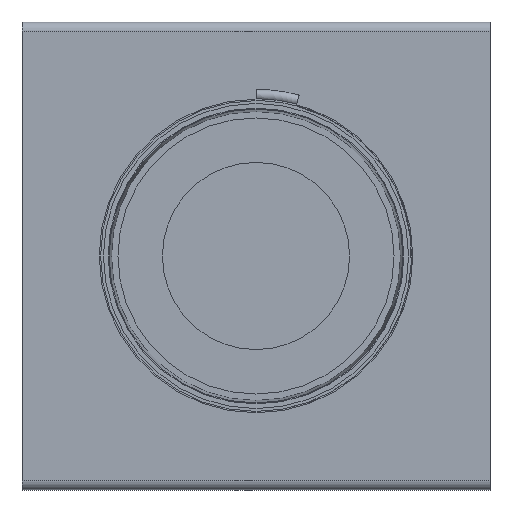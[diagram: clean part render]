
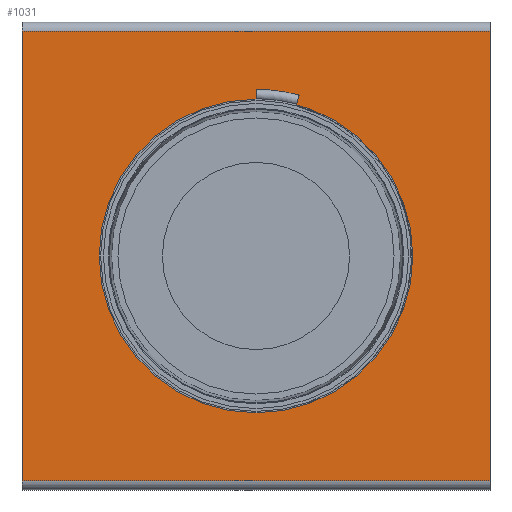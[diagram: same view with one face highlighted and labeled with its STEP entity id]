
A CAD part, front view. The second image highlights one B-rep face of the part: STEP entity #1031.
In plain terms, the highlighted planar face has unit normal (0, -1, 0).
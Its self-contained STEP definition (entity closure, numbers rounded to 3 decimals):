
#28=FACE_BOUND('',#144,.T.);
#48=PLANE('',#1121);
#81=FACE_OUTER_BOUND('',#143,.T.);
#143=EDGE_LOOP('',(#721,#722,#723,#724));
#144=EDGE_LOOP('',(#725,#726));
#225=LINE('',#1653,#289);
#230=LINE('',#1665,#294);
#231=LINE('',#1669,#295);
#232=LINE('',#1670,#296);
#289=VECTOR('',#1284,10.);
#294=VECTOR('',#1293,10.);
#295=VECTOR('',#1298,10.);
#296=VECTOR('',#1299,10.);
#352=CIRCLE('',#1122,167.5);
#353=CIRCLE('',#1123,167.5);
#444=VERTEX_POINT('',#1650);
#445=VERTEX_POINT('',#1652);
#450=VERTEX_POINT('',#1664);
#451=VERTEX_POINT('',#1668);
#452=VERTEX_POINT('',#1671);
#453=VERTEX_POINT('',#1672);
#555=EDGE_CURVE('',#445,#444,#225,.T.);
#561=EDGE_CURVE('',#445,#450,#230,.T.);
#563=EDGE_CURVE('',#451,#444,#231,.T.);
#564=EDGE_CURVE('',#451,#450,#232,.T.);
#565=EDGE_CURVE('',#452,#453,#352,.T.);
#566=EDGE_CURVE('',#453,#452,#353,.T.);
#721=ORIENTED_EDGE('',*,*,#561,.F.);
#722=ORIENTED_EDGE('',*,*,#555,.T.);
#723=ORIENTED_EDGE('',*,*,#563,.F.);
#724=ORIENTED_EDGE('',*,*,#564,.T.);
#725=ORIENTED_EDGE('',*,*,#565,.T.);
#726=ORIENTED_EDGE('',*,*,#566,.T.);
#1031=ADVANCED_FACE('',(#81,#28),#48,.T.);
#1121=AXIS2_PLACEMENT_3D('',#1667,#1296,#1297);
#1122=AXIS2_PLACEMENT_3D('',#1673,#1300,#1301);
#1123=AXIS2_PLACEMENT_3D('',#1674,#1302,#1303);
#1284=DIRECTION('',(0.,0.,1.));
#1293=DIRECTION('',(-1.,0.,0.));
#1296=DIRECTION('center_axis',(0.,-1.,0.));
#1297=DIRECTION('ref_axis',(0.,0.,-1.));
#1298=DIRECTION('',(1.,0.,0.));
#1299=DIRECTION('',(0.,0.,-1.));
#1300=DIRECTION('center_axis',(0.,1.,0.));
#1301=DIRECTION('ref_axis',(0.,0.,1.));
#1302=DIRECTION('center_axis',(0.,1.,0.));
#1303=DIRECTION('ref_axis',(0.,0.,1.));
#1650=CARTESIAN_POINT('',(250.,-250.,240.));
#1652=CARTESIAN_POINT('',(250.,-250.,-240.));
#1653=CARTESIAN_POINT('',(250.,-250.,250.));
#1664=CARTESIAN_POINT('',(-250.,-250.,-240.));
#1665=CARTESIAN_POINT('',(125.,-250.,-240.));
#1667=CARTESIAN_POINT('Origin',(0.,-250.,0.));
#1668=CARTESIAN_POINT('',(-250.,-250.,240.));
#1669=CARTESIAN_POINT('',(-125.,-250.,240.));
#1670=CARTESIAN_POINT('',(-250.,-250.,-250.));
#1671=CARTESIAN_POINT('',(0.,-250.,167.5));
#1672=CARTESIAN_POINT('',(0.,-250.,-167.5));
#1673=CARTESIAN_POINT('Origin',(0.,-250.,0.));
#1674=CARTESIAN_POINT('Origin',(0.,-250.,0.));
